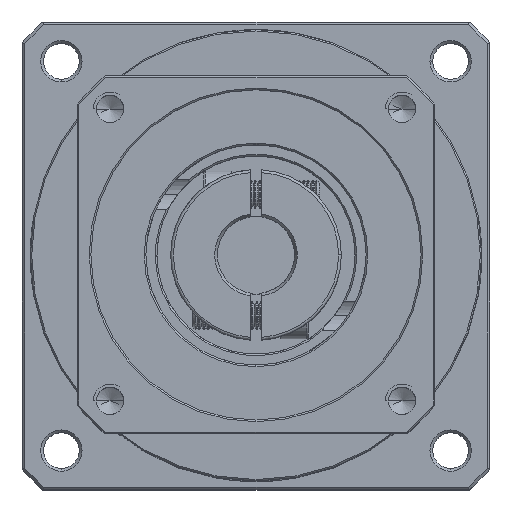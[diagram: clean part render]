
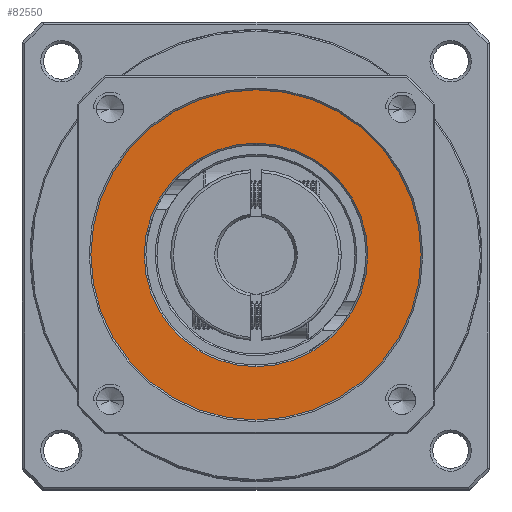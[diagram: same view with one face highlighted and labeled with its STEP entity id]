
A CAD part, top view. The second image highlights one B-rep face of the part: STEP entity #82550.
In plain terms, the highlighted planar face has unit normal (0, 0, 1).
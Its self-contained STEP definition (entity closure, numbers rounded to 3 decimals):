
#547 = CARTESIAN_POINT ( 'NONE',  ( -70.148, 22.673, 13.877 ) ) ;
#2097 = EDGE_CURVE ( 'NONE', #97621, #66533, #32120, .T. ) ;
#3947 = FACE_OUTER_BOUND ( 'NONE', #91008, .T. ) ;
#9360 = DIRECTION ( 'NONE',  ( 0., 0., 1. ) ) ;
#9839 = DIRECTION ( 'NONE',  ( 1., 0., 0. ) ) ;
#11375 = EDGE_CURVE ( 'NONE', #66533, #97621, #61525, .T. ) ;
#13303 = CARTESIAN_POINT ( 'NONE',  ( -100.148, 22.673, 13.877 ) ) ;
#16069 = CARTESIAN_POINT ( 'NONE',  ( -49.848, 22.673, 13.877 ) ) ;
#25073 = DIRECTION ( 'NONE',  ( 1., 0., 0. ) ) ;
#27640 = PLANE ( 'NONE',  #101889 ) ;
#30386 = DIRECTION ( 'NONE',  ( 0., 0., -1. ) ) ;
#30796 = CARTESIAN_POINT ( 'NONE',  ( -70.148, 22.673, 13.877 ) ) ;
#31807 = VERTEX_POINT ( 'NONE', #13303 ) ;
#31950 = EDGE_CURVE ( 'NONE', #106441, #31807, #73582, .T. ) ;
#32120 = CIRCLE ( 'NONE', #82653, 20.3 ) ;
#35101 = DIRECTION ( 'NONE',  ( 0., 0., 1. ) ) ;
#36884 = ORIENTED_EDGE ( 'NONE', *, *, #31950, .T. ) ;
#44825 = EDGE_CURVE ( 'NONE', #31807, #106441, #85041, .T. ) ;
#51228 = ORIENTED_EDGE ( 'NONE', *, *, #11375, .T. ) ;
#55418 = CARTESIAN_POINT ( 'NONE',  ( -70.148, 22.673, 13.877 ) ) ;
#55797 = CARTESIAN_POINT ( 'NONE',  ( -40.148, 22.673, 13.877 ) ) ;
#61525 = CIRCLE ( 'NONE', #88231, 20.3 ) ;
#63326 = AXIS2_PLACEMENT_3D ( 'NONE', #547, #65410, #9839 ) ;
#64723 = DIRECTION ( 'NONE',  ( 1., 0., 0. ) ) ;
#64925 = CARTESIAN_POINT ( 'NONE',  ( -70.148, 22.673, 13.877 ) ) ;
#65410 = DIRECTION ( 'NONE',  ( 0., 0., 1. ) ) ;
#66533 = VERTEX_POINT ( 'NONE', #70194 ) ;
#70194 = CARTESIAN_POINT ( 'NONE',  ( -90.448, 22.673, 13.877 ) ) ;
#73582 = CIRCLE ( 'NONE', #103551, 30. ) ;
#74217 = DIRECTION ( 'NONE',  ( 1., 0., 0. ) ) ;
#74978 = FACE_BOUND ( 'NONE', #89657, .T. ) ;
#82420 = ORIENTED_EDGE ( 'NONE', *, *, #44825, .T. ) ;
#82550 = ADVANCED_FACE ( 'NONE', ( #74978, #3947 ), #27640, .T. ) ;
#82653 = AXIS2_PLACEMENT_3D ( 'NONE', #30796, #30386, #25073 ) ;
#85041 = CIRCLE ( 'NONE', #63326, 30. ) ;
#85467 = ORIENTED_EDGE ( 'NONE', *, *, #2097, .T. ) ;
#88231 = AXIS2_PLACEMENT_3D ( 'NONE', #55418, #120079, #64723 ) ;
#89657 = EDGE_LOOP ( 'NONE', ( #85467, #51228 ) ) ;
#90580 = CARTESIAN_POINT ( 'NONE',  ( -70.148, 22.673, 13.877 ) ) ;
#91008 = EDGE_LOOP ( 'NONE', ( #36884, #82420 ) ) ;
#97621 = VERTEX_POINT ( 'NONE', #16069 ) ;
#99898 = DIRECTION ( 'NONE',  ( 1., 0., 0. ) ) ;
#101889 = AXIS2_PLACEMENT_3D ( 'NONE', #64925, #9360, #74217 ) ;
#103551 = AXIS2_PLACEMENT_3D ( 'NONE', #90580, #35101, #99898 ) ;
#106441 = VERTEX_POINT ( 'NONE', #55797 ) ;
#120079 = DIRECTION ( 'NONE',  ( 0., 0., -1. ) ) ;
